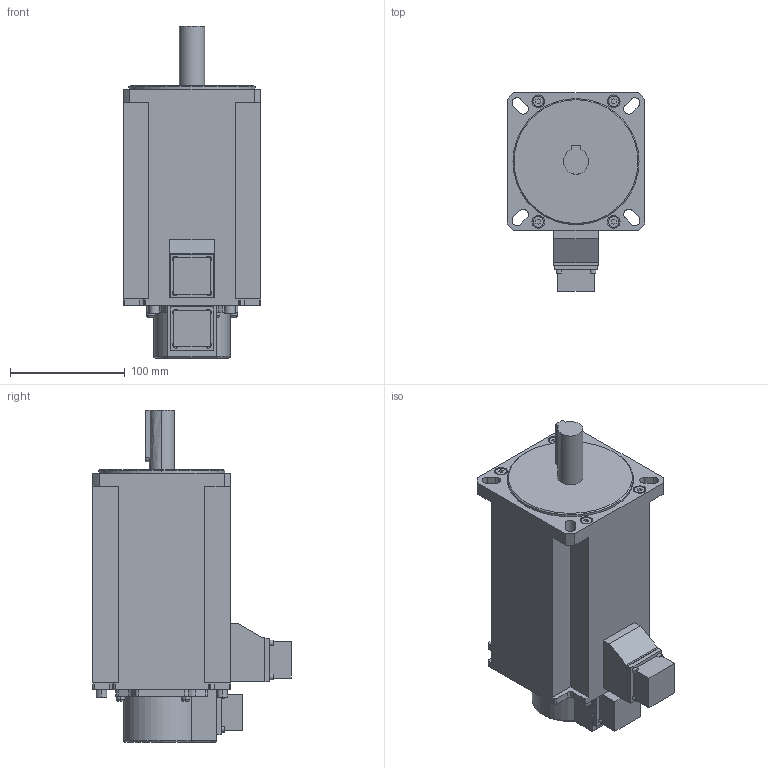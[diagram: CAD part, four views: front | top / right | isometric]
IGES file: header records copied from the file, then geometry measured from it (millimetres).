
Start section:  PTC IGES file: rsms_35ask3-070830.igs
Global section: file name: rsms_35ask3-070830.igs; native system: Pro/ENGINEER by Parametric Technology Corporation; preprocessor: 2004440; author: Administrator; organization: Unknown; date: 070830.160311; units: millimetre
Bounding box: 120 x 172.7 x 289.5 mm (x, y, z)
Volume: 2710763.3 mm3; surface area: 152320.2 mm2
Topology: 1 solids, 1 shells, 274 faces, 708 edges, 464 vertices
Faces by surface type: bspline 171, revolution 103
